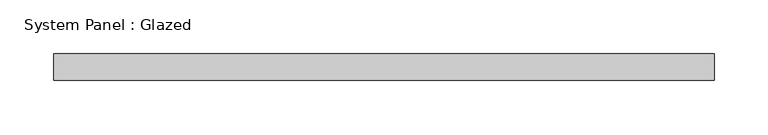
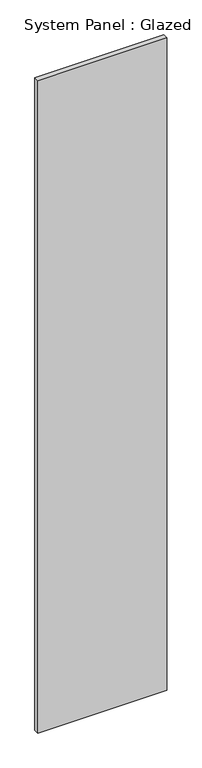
"""IFC4 building model written with IfcOpenShell, lengths in millimetres: plate geometry, System Panel : Glazed."""

from ifc_helpers import new_model, si_unit, origin, origin_with_axes, place, context, project, spatial, polyline, outline, extrude, source, transform, mapped, element, save


def system_panel_glazed_36099b5c(model_context):
    return source(origin(), model_context, "Body", "SweptSolid", [
        extrude(outline(polyline([(308.3188433, 24.5), (-308.3188433, 24.5), (-308.3188433, 49.5), (308.3188433, 49.5), (308.3188433, 24.5)])), origin_with_axes(), (0.0, 0.0, 1.0), 3300.0),
    ])


if __name__ == "__main__":
    model = new_model("IFC4")
    model_context = context("Model", 3, world=origin())
    ifc_project = project(units=[si_unit("LENGTHUNIT", "METRE", prefix="MILLI")], contexts=[model_context])
    site = spatial("IfcSite", under=ifc_project)
    building = spatial("IfcBuilding", under=site)
    placement = place(None, origin())
    system_panel_glazed_shape = system_panel_glazed_36099b5c(model_context)
    element("IfcPlate", 1, ObjectType="System Panel : Glazed", at=placement, inside=building, context=model_context, shape_type="MappedRepresentation", body=[
        mapped(system_panel_glazed_shape, transform((0.0, 0.0, 0.0), x_axis=(1.0, 0.0, 0.0), y_axis=(0.0, 1.0, 0.0), z_axis=(0.0, 0.0, 1.0))),
    ])
    save(model, "model.ifc")
